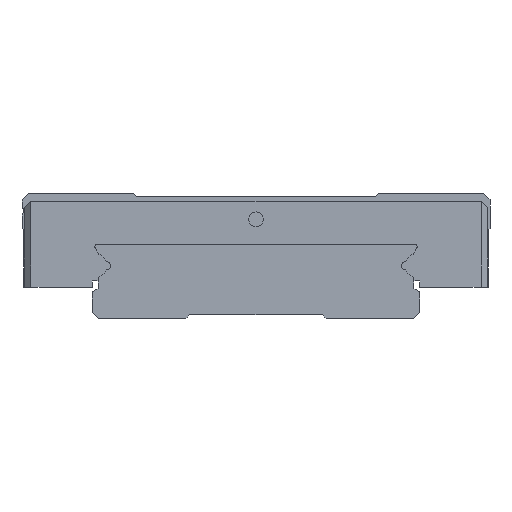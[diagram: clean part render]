
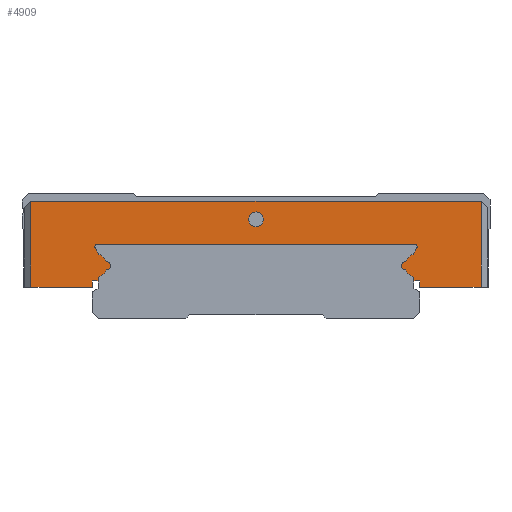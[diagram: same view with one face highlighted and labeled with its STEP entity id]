
A CAD part, left-side view. The second image highlights one B-rep face of the part: STEP entity #4909.
In plain terms, the highlighted planar face has unit normal (-1, 0, 0).
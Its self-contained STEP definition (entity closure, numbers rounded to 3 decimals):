
#2807=CARTESIAN_POINT('',(0.0,28.85,15.0));
#2808=VERTEX_POINT('',#2807);
#2815=CARTESIAN_POINT('',(0.0,-28.85,15.0));
#2816=VERTEX_POINT('',#2815);
#2817=CARTESIAN_POINT('',(0.0,-28.85,15.0));
#2818=DIRECTION('',(0.0,1.0,0.0));
#2819=VECTOR('',#2818,57.7);
#2820=LINE('',#2817,#2819);
#2821=EDGE_CURVE('',#2816,#2808,#2820,.T.);
#3161=CARTESIAN_POINT('',(0.0,0.95,12.7));
#3162=VERTEX_POINT('',#3161);
#3163=CARTESIAN_POINT('',(0.0,0.,12.7));
#3164=DIRECTION('',(1.0,0.0,0.0));
#3165=DIRECTION('',(0.0,-1.0,0.0));
#3166=AXIS2_PLACEMENT_3D('',#3163,#3164,#3165);
#3167=CIRCLE('',#3166,0.95);
#3168=EDGE_CURVE('',#3162,#3162,#3167,.T.);
#4143=CARTESIAN_POINT('',(0.0,-28.85,4.0));
#4144=VERTEX_POINT('',#4143);
#4145=CARTESIAN_POINT('',(0.0,-28.85,4.0));
#4146=DIRECTION('',(0.0,0.0,1.0));
#4147=VECTOR('',#4146,11.0);
#4148=LINE('',#4145,#4147);
#4149=EDGE_CURVE('',#4144,#2816,#4148,.T.);
#4190=CARTESIAN_POINT('',(0.0,28.85,4.0));
#4191=VERTEX_POINT('',#4190);
#4198=CARTESIAN_POINT('',(0.0,28.85,15.0));
#4199=DIRECTION('',(0.0,0.0,-1.0));
#4200=VECTOR('',#4199,11.0);
#4201=LINE('',#4198,#4200);
#4202=EDGE_CURVE('',#2808,#4191,#4201,.T.);
#4239=CARTESIAN_POINT('',(0.0,-21.,4.0));
#4240=VERTEX_POINT('',#4239);
#4241=CARTESIAN_POINT('',(0.0,-21.,4.0));
#4242=DIRECTION('',(0.0,-1.0,0.0));
#4243=VECTOR('',#4242,7.85);
#4244=LINE('',#4241,#4243);
#4245=EDGE_CURVE('',#4240,#4144,#4244,.T.);
#4286=CARTESIAN_POINT('',(0.0,21.,4.0));
#4287=VERTEX_POINT('',#4286);
#4294=CARTESIAN_POINT('',(0.0,28.85,4.0));
#4295=DIRECTION('',(0.0,-1.0,0.0));
#4296=VECTOR('',#4295,7.85);
#4297=LINE('',#4294,#4296);
#4298=EDGE_CURVE('',#4191,#4287,#4297,.T.);
#4323=CARTESIAN_POINT('',(0.0,21.,4.8));
#4324=VERTEX_POINT('',#4323);
#4331=CARTESIAN_POINT('',(0.0,21.,4.0));
#4332=DIRECTION('',(0.0,0.0,1.0));
#4333=VECTOR('',#4332,0.8);
#4334=LINE('',#4331,#4333);
#4335=EDGE_CURVE('',#4287,#4324,#4334,.T.);
#4354=CARTESIAN_POINT('',(0.0,20.25,4.8));
#4355=VERTEX_POINT('',#4354);
#4362=CARTESIAN_POINT('',(0.0,21.,4.8));
#4363=DIRECTION('',(0.0,-1.0,0.0));
#4364=VECTOR('',#4363,0.75);
#4365=LINE('',#4362,#4364);
#4366=EDGE_CURVE('',#4324,#4355,#4365,.T.);
#4385=CARTESIAN_POINT('',(0.0,20.25,5.23));
#4386=VERTEX_POINT('',#4385);
#4393=CARTESIAN_POINT('',(0.0,20.25,4.8));
#4394=DIRECTION('',(0.0,0.,1.0));
#4395=VECTOR('',#4394,0.43);
#4396=LINE('',#4393,#4395);
#4397=EDGE_CURVE('',#4355,#4386,#4396,.T.);
#4417=CARTESIAN_POINT('',(0.0,19.228,6.256));
#4418=VERTEX_POINT('',#4417);
#4425=CARTESIAN_POINT('',(0.0,20.75,6.75));
#4426=DIRECTION('',(-1.,0.0,0.0));
#4427=DIRECTION('',(0.0,0.951,0.309));
#4428=AXIS2_PLACEMENT_3D('',#4425,#4426,#4427);
#4429=CIRCLE('',#4428,1.6);
#4430=EDGE_CURVE('',#4386,#4418,#4429,.T.);
#4450=CARTESIAN_POINT('',(0.0,19.228,7.244));
#4451=VERTEX_POINT('',#4450);
#4458=CARTESIAN_POINT('',(0.0,19.15,6.75));
#4459=DIRECTION('',(-1.,0.0,0.0));
#4460=DIRECTION('',(0.0,-0.156,-0.988));
#4461=AXIS2_PLACEMENT_3D('',#4458,#4459,#4460);
#4462=CIRCLE('',#4461,0.5);
#4463=EDGE_CURVE('',#4418,#4451,#4462,.T.);
#4483=CARTESIAN_POINT('',(0.0,20.159,8.237));
#4484=VERTEX_POINT('',#4483);
#4491=CARTESIAN_POINT('',(0.0,20.75,6.75));
#4492=DIRECTION('',(-1.,0.0,0.0));
#4493=DIRECTION('',(0.0,0.37,-0.929));
#4494=AXIS2_PLACEMENT_3D('',#4491,#4492,#4493);
#4495=CIRCLE('',#4494,1.6);
#4496=EDGE_CURVE('',#4451,#4484,#4495,.T.);
#4515=CARTESIAN_POINT('',(0.0,20.628,9.05));
#4516=VERTEX_POINT('',#4515);
#4523=CARTESIAN_POINT('',(0.0,20.159,8.237));
#4524=DIRECTION('',(0.0,0.5,0.866));
#4525=VECTOR('',#4524,0.939);
#4526=LINE('',#4523,#4525);
#4527=EDGE_CURVE('',#4484,#4516,#4526,.T.);
#4547=CARTESIAN_POINT('',(0.0,20.369,9.5));
#4548=VERTEX_POINT('',#4547);
#4555=CARTESIAN_POINT('',(0.0,20.369,9.2));
#4556=DIRECTION('',(1.0,0.0,0.0));
#4557=DIRECTION('',(0.0,0.866,-0.5));
#4558=AXIS2_PLACEMENT_3D('',#4555,#4556,#4557);
#4559=CIRCLE('',#4558,0.3);
#4560=EDGE_CURVE('',#4516,#4548,#4559,.T.);
#4579=CARTESIAN_POINT('',(0.0,-20.369,9.5));
#4580=VERTEX_POINT('',#4579);
#4587=CARTESIAN_POINT('',(0.0,20.369,9.5));
#4588=DIRECTION('',(0.0,-1.0,0.0));
#4589=VECTOR('',#4588,40.737);
#4590=LINE('',#4587,#4589);
#4591=EDGE_CURVE('',#4548,#4580,#4590,.T.);
#4611=CARTESIAN_POINT('',(0.0,-20.628,9.05));
#4612=VERTEX_POINT('',#4611);
#4619=CARTESIAN_POINT('',(0.0,-20.369,9.2));
#4620=DIRECTION('',(1.0,0.0,0.0));
#4621=DIRECTION('',(0.0,0.0,1.0));
#4622=AXIS2_PLACEMENT_3D('',#4619,#4620,#4621);
#4623=CIRCLE('',#4622,0.3);
#4624=EDGE_CURVE('',#4580,#4612,#4623,.T.);
#4643=CARTESIAN_POINT('',(0.0,-20.159,8.237));
#4644=VERTEX_POINT('',#4643);
#4651=CARTESIAN_POINT('',(0.0,-20.628,9.05));
#4652=DIRECTION('',(0.0,0.5,-0.866));
#4653=VECTOR('',#4652,0.939);
#4654=LINE('',#4651,#4653);
#4655=EDGE_CURVE('',#4612,#4644,#4654,.T.);
#4675=CARTESIAN_POINT('',(0.0,-19.228,7.244));
#4676=VERTEX_POINT('',#4675);
#4683=CARTESIAN_POINT('',(0.0,-20.75,6.75));
#4684=DIRECTION('',(-1.0,0.0,0.0));
#4685=DIRECTION('',(0.0,-0.951,-0.309));
#4686=AXIS2_PLACEMENT_3D('',#4683,#4684,#4685);
#4687=CIRCLE('',#4686,1.6);
#4688=EDGE_CURVE('',#4644,#4676,#4687,.T.);
#4708=CARTESIAN_POINT('',(0.0,-19.228,6.256));
#4709=VERTEX_POINT('',#4708);
#4716=CARTESIAN_POINT('',(0.0,-19.15,6.75));
#4717=DIRECTION('',(-1.,0.0,0.0));
#4718=DIRECTION('',(0.0,0.156,0.988));
#4719=AXIS2_PLACEMENT_3D('',#4716,#4717,#4718);
#4720=CIRCLE('',#4719,0.5);
#4721=EDGE_CURVE('',#4676,#4709,#4720,.T.);
#4741=CARTESIAN_POINT('',(0.0,-20.25,5.23));
#4742=VERTEX_POINT('',#4741);
#4749=CARTESIAN_POINT('',(0.0,-20.75,6.75));
#4750=DIRECTION('',(-1.0,0.0,0.0));
#4751=DIRECTION('',(0.0,-0.313,0.95));
#4752=AXIS2_PLACEMENT_3D('',#4749,#4750,#4751);
#4753=CIRCLE('',#4752,1.6);
#4754=EDGE_CURVE('',#4709,#4742,#4753,.T.);
#4773=CARTESIAN_POINT('',(0.0,-20.25,4.8));
#4774=VERTEX_POINT('',#4773);
#4781=CARTESIAN_POINT('',(0.0,-20.25,5.23));
#4782=DIRECTION('',(0.0,0.,-1.0));
#4783=VECTOR('',#4782,0.43);
#4784=LINE('',#4781,#4783);
#4785=EDGE_CURVE('',#4742,#4774,#4784,.T.);
#4804=CARTESIAN_POINT('',(0.0,-21.,4.8));
#4805=VERTEX_POINT('',#4804);
#4812=CARTESIAN_POINT('',(0.0,-20.25,4.8));
#4813=DIRECTION('',(0.0,-1.0,0.0));
#4814=VECTOR('',#4813,0.75);
#4815=LINE('',#4812,#4814);
#4816=EDGE_CURVE('',#4774,#4805,#4815,.T.);
#4834=CARTESIAN_POINT('',(0.0,-21.,4.8));
#4835=DIRECTION('',(0.0,0.0,-1.0));
#4836=VECTOR('',#4835,0.8);
#4837=LINE('',#4834,#4836);
#4838=EDGE_CURVE('',#4805,#4240,#4837,.T.);
#4877=CARTESIAN_POINT('',(0.0,0.,10.709));
#4878=DIRECTION('',(1.0,0.0,0.0));
#4879=DIRECTION('',(0.0,0.0,-1.0));
#4880=AXIS2_PLACEMENT_3D('',#4877,#4878,#4879);
#4881=PLANE('',#4880);
#4882=ORIENTED_EDGE('',*,*,#4838,.T.);
#4883=ORIENTED_EDGE('',*,*,#4245,.T.);
#4884=ORIENTED_EDGE('',*,*,#4149,.T.);
#4885=ORIENTED_EDGE('',*,*,#2821,.T.);
#4886=ORIENTED_EDGE('',*,*,#4202,.T.);
#4887=ORIENTED_EDGE('',*,*,#4298,.T.);
#4888=ORIENTED_EDGE('',*,*,#4335,.T.);
#4889=ORIENTED_EDGE('',*,*,#4366,.T.);
#4890=ORIENTED_EDGE('',*,*,#4397,.T.);
#4891=ORIENTED_EDGE('',*,*,#4430,.T.);
#4892=ORIENTED_EDGE('',*,*,#4463,.T.);
#4893=ORIENTED_EDGE('',*,*,#4496,.T.);
#4894=ORIENTED_EDGE('',*,*,#4527,.T.);
#4895=ORIENTED_EDGE('',*,*,#4560,.T.);
#4896=ORIENTED_EDGE('',*,*,#4591,.T.);
#4897=ORIENTED_EDGE('',*,*,#4624,.T.);
#4898=ORIENTED_EDGE('',*,*,#4655,.T.);
#4899=ORIENTED_EDGE('',*,*,#4688,.T.);
#4900=ORIENTED_EDGE('',*,*,#4721,.T.);
#4901=ORIENTED_EDGE('',*,*,#4754,.T.);
#4902=ORIENTED_EDGE('',*,*,#4785,.T.);
#4903=ORIENTED_EDGE('',*,*,#4816,.T.);
#4904=EDGE_LOOP('',(#4882,#4883,#4884,#4885,#4886,#4887,#4888,#4889,#4890,#4891,#4892,#4893,#4894,#4895,#4896,#4897,#4898,#4899,#4900,#4901,#4902,#4903));
#4905=FACE_OUTER_BOUND('',#4904,.T.);
#4906=ORIENTED_EDGE('',*,*,#3168,.T.);
#4907=EDGE_LOOP('',(#4906));
#4908=FACE_BOUND('',#4907,.T.);
#4909=ADVANCED_FACE('',(#4905,#4908),#4881,.F.);
